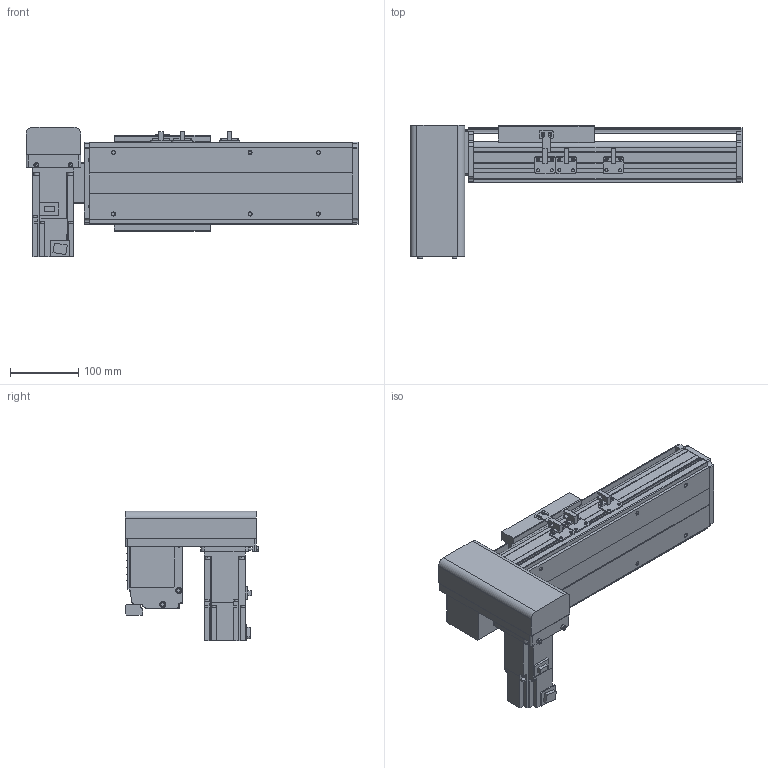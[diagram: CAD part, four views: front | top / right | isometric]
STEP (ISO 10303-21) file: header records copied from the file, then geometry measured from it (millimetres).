
FILE_DESCRIPTION( ( 'STEP AP214' ), '1' );
FILE_NAME( 'x:/temp/worker_27/temp/exporttempdir_6708_170_UZd3B/format_0/PBS120-P40-S100-RD-T40-C1-N(0).stp', '2022-06-06T00:40:18', ( 'License CC BY-ND 4.0' ), ( 'CADENAS' ), ' ', 'PARTsolutions', ' ' );
FILE_SCHEMA( ( 'AUTOMOTIVE_DESIGN { 1 0 10303 214 1 1 1 1 }' ) );
Length unit declared in the file: millimetre
Products named in the file (7): PBS120-P40-S100-RD-T40-C1-N(0); _PBS120-S100()_body; _PBS120T-RD_motors; _T40-p1; _PBS120_sliser; _PBS120_plant; _PBS120_sensor
Assembly tree (8 placements, depth 2):
  PBS120-P40-S100-RD-T40-C1-N(0)
    _PBS120-S100()_body
    _PBS120T-RD_motors
    _T40-p1
    _PBS120_sliser
    _PBS120_plant
    _PBS120_sensor  x3
Bounding box: 486 x 196 x 189.7 mm (x, y, z)
Volume: 3031734 mm3; surface area: 517473.7 mm2
Topology: 8 solids, 8 shells, 798 faces, 2106 edges, 1357 vertices
Faces by surface type: plane 539, cylinder 219, cone 38, torus 2
Full cylindrical faces by diameter (mm): 2.459 x6, 3.242 x4, 4 x2, 4.134 x4, 4.5 x10, 4.917 x10, 5.5 x11, 6 x2, 6.6 x1, 7 x2, 8.5 x4, 9 x4, 12 x1, 14 x1, 30 x2, 40 x1, 50 x2
Entity records: 26484 total; most frequent: DIRECTION 3620, CARTESIAN_POINT 3587, ORIENTED_EDGE 3442, EDGE_CURVE 1721, LINE 1228, VECTOR 1228, AXIS2_PLACEMENT_3D 1196, VERTEX_POINT 1163
